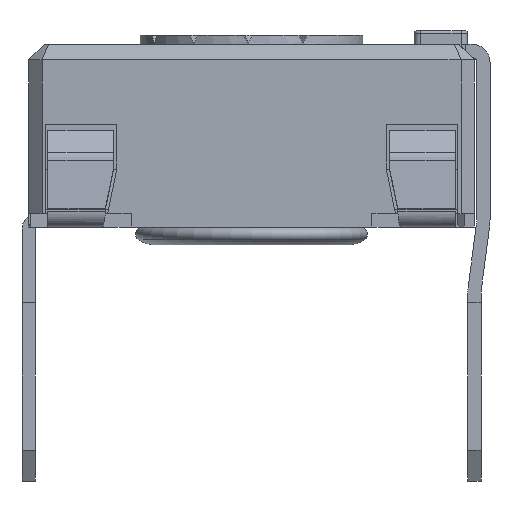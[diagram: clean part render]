
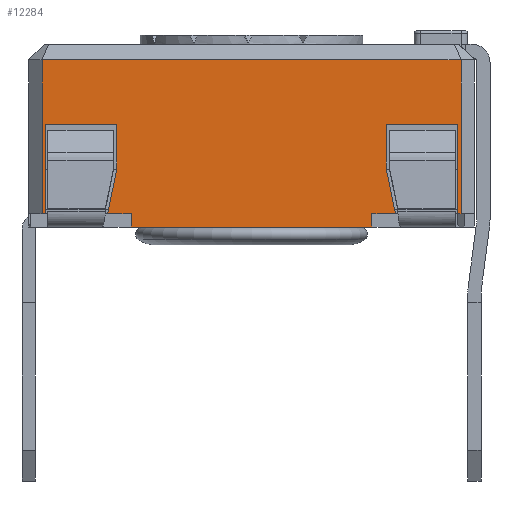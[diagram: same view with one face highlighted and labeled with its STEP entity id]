
A CAD part, left-side view. The second image highlights one B-rep face of the part: STEP entity #12284.
In plain terms, the highlighted planar face has unit normal (-1, 0, 0).
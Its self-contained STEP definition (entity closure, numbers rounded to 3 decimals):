
#495=PLANE('',#13205);
#1096=FACE_OUTER_BOUND('',#1721,.T.);
#1721=EDGE_LOOP('',(#10740,#10741,#10742,#10743,#10744,#10745,#10746,#10747,
#10748,#10749,#10750,#10751,#10752,#10753,#10754,#10755,#10756,#10757));
#2578=LINE('',#18493,#4010);
#2609=LINE('',#18555,#4041);
#2615=LINE('',#18567,#4047);
#2636=LINE('',#18609,#4068);
#2804=LINE('',#19137,#4236);
#2847=LINE('',#19219,#4279);
#2850=LINE('',#19225,#4282);
#2999=LINE('',#19603,#4431);
#3001=LINE('',#19607,#4433);
#3005=LINE('',#19615,#4437);
#3008=LINE('',#19621,#4440);
#3015=LINE('',#19635,#4447);
#3017=LINE('',#19639,#4449);
#3023=LINE('',#19650,#4455);
#3024=LINE('',#19652,#4456);
#3025=LINE('',#19655,#4457);
#3026=LINE('',#19657,#4458);
#3027=LINE('',#19658,#4459);
#4010=VECTOR('',#15042,10.);
#4041=VECTOR('',#15077,10.);
#4047=VECTOR('',#15083,10.);
#4068=VECTOR('',#15106,10.);
#4236=VECTOR('',#15582,10.);
#4279=VECTOR('',#15657,10.);
#4282=VECTOR('',#15666,10.);
#4431=VECTOR('',#16033,10.);
#4433=VECTOR('',#16037,10.);
#4437=VECTOR('',#16043,10.);
#4440=VECTOR('',#16048,10.);
#4447=VECTOR('',#16063,10.);
#4449=VECTOR('',#16067,10.);
#4455=VECTOR('',#16079,10.);
#4456=VECTOR('',#16082,10.);
#4457=VECTOR('',#16085,10.);
#4458=VECTOR('',#16086,10.);
#4459=VECTOR('',#16087,10.);
#5629=VERTEX_POINT('',#18490);
#5630=VERTEX_POINT('',#18492);
#5658=VERTEX_POINT('',#18552);
#5659=VERTEX_POINT('',#18554);
#5664=VERTEX_POINT('',#18564);
#5665=VERTEX_POINT('',#18566);
#5684=VERTEX_POINT('',#18606);
#5685=VERTEX_POINT('',#18608);
#5836=VERTEX_POINT('',#19134);
#5837=VERTEX_POINT('',#19136);
#5956=VERTEX_POINT('',#19601);
#5957=VERTEX_POINT('',#19606);
#5960=VERTEX_POINT('',#19613);
#5962=VERTEX_POINT('',#19620);
#5965=VERTEX_POINT('',#19634);
#5966=VERTEX_POINT('',#19638);
#5969=VERTEX_POINT('',#19654);
#5970=VERTEX_POINT('',#19656);
#7061=EDGE_CURVE('',#5630,#5629,#2578,.T.);
#7092=EDGE_CURVE('',#5659,#5658,#2609,.T.);
#7098=EDGE_CURVE('',#5665,#5664,#2615,.T.);
#7119=EDGE_CURVE('',#5685,#5684,#2636,.T.);
#7365=EDGE_CURVE('',#5837,#5836,#2804,.T.);
#7408=EDGE_CURVE('',#5659,#5836,#2847,.T.);
#7411=EDGE_CURVE('',#5664,#5837,#2850,.T.);
#7597=EDGE_CURVE('',#5658,#5956,#2999,.T.);
#7599=EDGE_CURVE('',#5957,#5665,#3001,.T.);
#7603=EDGE_CURVE('',#5956,#5960,#3005,.T.);
#7606=EDGE_CURVE('',#5962,#5957,#3008,.T.);
#7613=EDGE_CURVE('',#5965,#5962,#3015,.T.);
#7615=EDGE_CURVE('',#5966,#5685,#3017,.T.);
#7621=EDGE_CURVE('',#5960,#5966,#3023,.T.);
#7622=EDGE_CURVE('',#5629,#5965,#3024,.T.);
#7623=EDGE_CURVE('',#5969,#5684,#3025,.T.);
#7624=EDGE_CURVE('',#5970,#5969,#3026,.T.);
#7625=EDGE_CURVE('',#5970,#5630,#3027,.T.);
#10740=ORIENTED_EDGE('',*,*,#7622,.T.);
#10741=ORIENTED_EDGE('',*,*,#7613,.T.);
#10742=ORIENTED_EDGE('',*,*,#7606,.T.);
#10743=ORIENTED_EDGE('',*,*,#7599,.T.);
#10744=ORIENTED_EDGE('',*,*,#7098,.T.);
#10745=ORIENTED_EDGE('',*,*,#7411,.T.);
#10746=ORIENTED_EDGE('',*,*,#7365,.T.);
#10747=ORIENTED_EDGE('',*,*,#7408,.F.);
#10748=ORIENTED_EDGE('',*,*,#7092,.T.);
#10749=ORIENTED_EDGE('',*,*,#7597,.T.);
#10750=ORIENTED_EDGE('',*,*,#7603,.T.);
#10751=ORIENTED_EDGE('',*,*,#7621,.T.);
#10752=ORIENTED_EDGE('',*,*,#7615,.T.);
#10753=ORIENTED_EDGE('',*,*,#7119,.T.);
#10754=ORIENTED_EDGE('',*,*,#7623,.F.);
#10755=ORIENTED_EDGE('',*,*,#7624,.F.);
#10756=ORIENTED_EDGE('',*,*,#7625,.T.);
#10757=ORIENTED_EDGE('',*,*,#7061,.T.);
#12284=ADVANCED_FACE('',(#1096),#495,.T.);
#13205=AXIS2_PLACEMENT_3D('',#19653,#16083,#16084);
#15042=DIRECTION('',(0.,-1.,0.));
#15077=DIRECTION('',(0.,-1.,0.));
#15083=DIRECTION('',(0.,-1.,0.));
#15106=DIRECTION('',(0.,-1.,0.));
#15582=DIRECTION('',(0.,-1.,0.));
#15657=DIRECTION('',(0.,0.,-1.));
#15666=DIRECTION('',(0.,0.,-1.));
#16033=DIRECTION('',(0.,0.199,0.98));
#16037=DIRECTION('',(0.,0.199,-0.98));
#16043=DIRECTION('',(0.,0.,1.));
#16048=DIRECTION('',(0.,0.,-1.));
#16063=DIRECTION('',(0.,-1.,0.));
#16067=DIRECTION('',(0.,0.,-1.));
#16079=DIRECTION('',(0.,-1.,0.));
#16082=DIRECTION('',(0.,0.,1.));
#16083=DIRECTION('center_axis',(-1.,0.,0.));
#16084=DIRECTION('ref_axis',(0.,0.,1.));
#16085=DIRECTION('',(0.,0.,-1.));
#16086=DIRECTION('',(0.,-1.,0.));
#16087=DIRECTION('',(0.,0.,-1.));
#18490=CARTESIAN_POINT('',(-31.348,-8.365,-3.8));
#18492=CARTESIAN_POINT('',(-31.348,-8.29,-3.8));
#18493=CARTESIAN_POINT('',(-31.348,-17.69,-3.8));
#18552=CARTESIAN_POINT('',(-31.348,-16.219,-3.8));
#18554=CARTESIAN_POINT('',(-31.348,-15.69,-3.8));
#18555=CARTESIAN_POINT('',(-31.348,-9.762,-3.8));
#18564=CARTESIAN_POINT('',(-31.348,-10.29,-3.8));
#18566=CARTESIAN_POINT('',(-31.348,-9.762,-3.8));
#18567=CARTESIAN_POINT('',(-31.348,-9.762,-3.8));
#18606=CARTESIAN_POINT('',(-31.348,-17.69,-3.8));
#18608=CARTESIAN_POINT('',(-31.348,-17.615,-3.8));
#18609=CARTESIAN_POINT('',(-31.348,-17.69,-3.8));
#19134=CARTESIAN_POINT('',(-31.348,-15.69,-4.1));
#19136=CARTESIAN_POINT('',(-31.348,-10.29,-4.1));
#19137=CARTESIAN_POINT('',(-31.348,-16.219,-4.1));
#19219=CARTESIAN_POINT('',(-31.348,-15.69,-3.8));
#19225=CARTESIAN_POINT('',(-31.348,-10.29,-3.8));
#19601=CARTESIAN_POINT('',(-31.348,-16.015,-2.8));
#19603=CARTESIAN_POINT('',(-31.348,-16.219,-3.8));
#19606=CARTESIAN_POINT('',(-31.348,-9.965,-2.8));
#19607=CARTESIAN_POINT('',(-31.348,-9.965,-2.8));
#19613=CARTESIAN_POINT('',(-31.348,-16.015,-1.8));
#19615=CARTESIAN_POINT('',(-31.348,-16.015,-2.8));
#19620=CARTESIAN_POINT('',(-31.348,-9.965,-1.8));
#19621=CARTESIAN_POINT('',(-31.348,-9.965,-1.8));
#19634=CARTESIAN_POINT('',(-31.348,-8.365,-1.8));
#19635=CARTESIAN_POINT('',(-31.348,-10.64,-1.8));
#19638=CARTESIAN_POINT('',(-31.348,-17.615,-1.8));
#19639=CARTESIAN_POINT('',(-31.348,-17.615,-1.368));
#19650=CARTESIAN_POINT('',(-31.348,-10.64,-1.8));
#19652=CARTESIAN_POINT('',(-31.348,-8.365,-1.368));
#19653=CARTESIAN_POINT('Origin',(-31.348,-8.29,0.));
#19654=CARTESIAN_POINT('',(-31.348,-17.69,-0.35));
#19655=CARTESIAN_POINT('',(-31.348,-17.69,0.));
#19656=CARTESIAN_POINT('',(-31.348,-8.29,-0.35));
#19657=CARTESIAN_POINT('',(-31.348,-10.64,-0.35));
#19658=CARTESIAN_POINT('',(-31.348,-8.29,0.));
